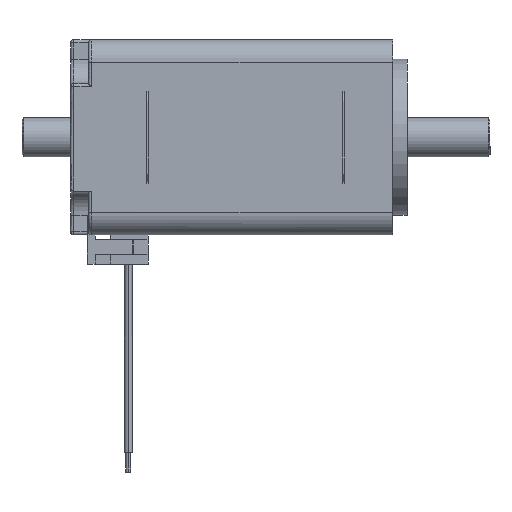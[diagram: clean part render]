
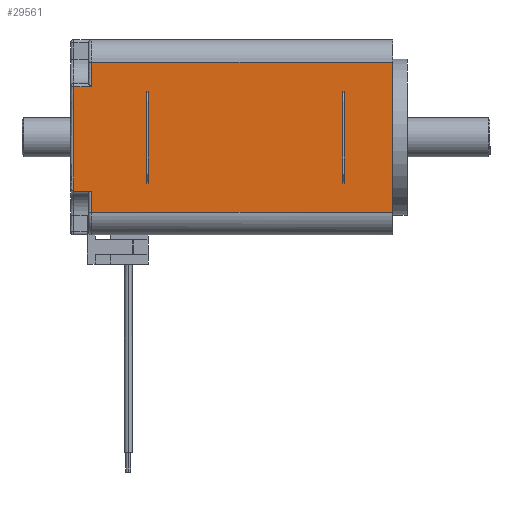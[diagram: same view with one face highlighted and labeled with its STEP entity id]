
A CAD part, left-side view. The second image highlights one B-rep face of the part: STEP entity #29561.
In plain terms, the highlighted planar face has unit normal (-1, 0, 0).
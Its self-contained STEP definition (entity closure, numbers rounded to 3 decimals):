
#7382=CARTESIAN_POINT('',(-10.,0.675,4.583));
#7383=VERTEX_POINT('',#7382);
#7391=CARTESIAN_POINT('',(-10.,0.675,-4.583));
#7392=VERTEX_POINT('',#7391);
#7393=CARTESIAN_POINT('',(-10.,0.675,4.583));
#7394=DIRECTION('',(0.,0.,-1.));
#7395=VECTOR('',#7394,9.165);
#7396=LINE('',#7393,#7395);
#7397=EDGE_CURVE('',#7383,#7392,#7396,.T.);
#8160=CARTESIAN_POINT('',(-10.,0.49,4.583));
#8161=VERTEX_POINT('',#8160);
#8162=CARTESIAN_POINT('',(-10.,0.49,4.583));
#8163=DIRECTION('',(0.,1.,0.));
#8164=VECTOR('',#8163,0.185);
#8165=LINE('',#8162,#8164);
#8166=EDGE_CURVE('',#8161,#7383,#8165,.T.);
#8209=CARTESIAN_POINT('',(-10.,0.49,-4.583));
#8210=VERTEX_POINT('',#8209);
#8244=CARTESIAN_POINT('',(-10.,0.675,-4.583));
#8245=DIRECTION('',(0.,-1.,0.));
#8246=VECTOR('',#8245,0.185);
#8247=LINE('',#8244,#8246);
#8248=EDGE_CURVE('',#7392,#8210,#8247,.T.);
#8487=CARTESIAN_POINT('',(-10.,0.49,-4.583));
#8488=DIRECTION('',(0.,0.,1.));
#8489=VECTOR('',#8488,9.165);
#8490=LINE('',#8487,#8489);
#8491=EDGE_CURVE('',#8210,#8161,#8490,.T.);
#8954=CARTESIAN_POINT('',(-10.,-4.45,7.7));
#8955=VERTEX_POINT('',#8954);
#8963=CARTESIAN_POINT('',(-10.,-4.45,-7.7));
#8964=VERTEX_POINT('',#8963);
#8965=CARTESIAN_POINT('',(-10.,-4.45,7.7));
#8966=DIRECTION('',(0.,0.,-1.));
#8967=VECTOR('',#8966,15.4);
#8968=LINE('',#8965,#8967);
#8969=EDGE_CURVE('',#8955,#8964,#8968,.T.);
#14772=CARTESIAN_POINT('',(-10.,26.42,7.7));
#14773=VERTEX_POINT('',#14772);
#14781=CARTESIAN_POINT('',(-10.,26.42,7.7));
#14782=DIRECTION('',(0.,-1.,0.));
#14783=VECTOR('',#14782,30.87);
#14784=LINE('',#14781,#14783);
#14785=EDGE_CURVE('',#14773,#8955,#14784,.T.);
#14796=CARTESIAN_POINT('',(-10.,26.42,-7.7));
#14797=VERTEX_POINT('',#14796);
#14798=CARTESIAN_POINT('',(-10.,-4.45,-7.7));
#14799=DIRECTION('',(0.,1.,0.));
#14800=VECTOR('',#14799,30.87);
#14801=LINE('',#14798,#14800);
#14802=EDGE_CURVE('',#8964,#14797,#14801,.T.);
#24553=CARTESIAN_POINT('',(-10.,20.81,-4.583));
#24554=VERTEX_POINT('',#24553);
#24734=CARTESIAN_POINT('',(-10.,20.81,4.583));
#24735=VERTEX_POINT('',#24734);
#24743=CARTESIAN_POINT('',(-10.,20.81,4.583));
#24744=DIRECTION('',(0.,0.,-1.));
#24745=VECTOR('',#24744,9.165);
#24746=LINE('',#24743,#24745);
#24747=EDGE_CURVE('',#24735,#24554,#24746,.T.);
#24907=CARTESIAN_POINT('',(-10.,20.625,-4.583));
#24908=VERTEX_POINT('',#24907);
#24916=CARTESIAN_POINT('',(-10.,20.625,4.583));
#24917=VERTEX_POINT('',#24916);
#24918=CARTESIAN_POINT('',(-10.,20.625,-4.583));
#24919=DIRECTION('',(0.,0.,1.));
#24920=VECTOR('',#24919,9.165);
#24921=LINE('',#24918,#24920);
#24922=EDGE_CURVE('',#24908,#24917,#24921,.T.);
#29066=CARTESIAN_POINT('',(-10.,20.81,-4.583));
#29067=DIRECTION('',(0.,-1.,0.));
#29068=VECTOR('',#29067,0.185);
#29069=LINE('',#29066,#29068);
#29070=EDGE_CURVE('',#24554,#24908,#29069,.T.);
#29491=CARTESIAN_POINT('',(-10.,20.625,4.583));
#29492=DIRECTION('',(0.,1.,0.));
#29493=VECTOR('',#29492,0.185);
#29494=LINE('',#29491,#29493);
#29495=EDGE_CURVE('',#24917,#24735,#29494,.T.);
#29500=CARTESIAN_POINT('',(-10.,11.9,0.));
#29501=DIRECTION('',(0.,0.,-1.));
#29502=DIRECTION('',(-1.,-0.,-0.));
#29503=AXIS2_PLACEMENT_3D('',#29500,#29502,#29501);
#29504=PLANE('',#29503);
#29505=CARTESIAN_POINT('',(-10.,26.42,5.2));
#29506=VERTEX_POINT('',#29505);
#29507=CARTESIAN_POINT('',(-10.,26.42,7.7));
#29508=DIRECTION('',(0.,0.,-1.));
#29509=VECTOR('',#29508,2.5);
#29510=LINE('',#29507,#29509);
#29511=EDGE_CURVE('',#14773,#29506,#29510,.T.);
#29512=ORIENTED_EDGE('E2681',*,*,#29511,.T.);
#29513=CARTESIAN_POINT('',(-10.,28.25,5.2));
#29514=VERTEX_POINT('',#29513);
#29515=CARTESIAN_POINT('',(-10.,26.42,5.2));
#29516=DIRECTION('',(0.,1.,0.));
#29517=VECTOR('',#29516,1.83);
#29518=LINE('',#29515,#29517);
#29519=EDGE_CURVE('',#29506,#29514,#29518,.T.);
#29520=ORIENTED_EDGE('E2682',*,*,#29519,.T.);
#29521=CARTESIAN_POINT('',(-10.,28.25,-5.5));
#29522=VERTEX_POINT('',#29521);
#29523=CARTESIAN_POINT('',(-10.,28.25,5.2));
#29524=DIRECTION('',(0.,0.,-1.));
#29525=VECTOR('',#29524,10.7);
#29526=LINE('',#29523,#29525);
#29527=EDGE_CURVE('',#29514,#29522,#29526,.T.);
#29528=ORIENTED_EDGE('E2683',*,*,#29527,.T.);
#29529=CARTESIAN_POINT('',(-10.,26.42,-5.5));
#29530=VERTEX_POINT('',#29529);
#29531=CARTESIAN_POINT('',(-10.,28.25,-5.5));
#29532=DIRECTION('',(0.,-1.,0.));
#29533=VECTOR('',#29532,1.83);
#29534=LINE('',#29531,#29533);
#29535=EDGE_CURVE('',#29522,#29530,#29534,.T.);
#29536=ORIENTED_EDGE('E2684',*,*,#29535,.T.);
#29537=CARTESIAN_POINT('',(-10.,26.42,-5.5));
#29538=CARTESIAN_POINT('',(-10.,26.42,-5.704));
#29539=CARTESIAN_POINT('',(-10.,26.42,-6.804));
#29540=CARTESIAN_POINT('',(-10.,26.42,-7.7));
#29541=B_SPLINE_CURVE_WITH_KNOTS('',2,(#29537,#29538,#29539,#29540),.UNSPECIFIED.,.F.,.U.,(3,1,3),(0.,0.026,0.139),.UNSPECIFIED.);
#29542=EDGE_CURVE('',#29530,#14797,#29541,.T.);
#29543=ORIENTED_EDGE('E2685',*,*,#29542,.T.);
#29544=ORIENTED_EDGE('E2685',*,*,#14802,.F.);
#29545=ORIENTED_EDGE('E2685',*,*,#8969,.F.);
#29546=ORIENTED_EDGE('E2685',*,*,#14785,.F.);
#29547=EDGE_LOOP('',(#29512,#29520,#29528,#29536,#29543,#29544,#29545,#29546));
#29548=FACE_OUTER_BOUND('',#29547,.T.);
#29549=ORIENTED_EDGE('',*,*,#24922,.F.);
#29550=ORIENTED_EDGE('',*,*,#29070,.F.);
#29551=ORIENTED_EDGE('',*,*,#24747,.F.);
#29552=ORIENTED_EDGE('',*,*,#29495,.F.);
#29553=EDGE_LOOP('',(#29549,#29550,#29551,#29552));
#29554=FACE_BOUND('',#29553,.T.);
#29555=ORIENTED_EDGE('',*,*,#7397,.F.);
#29556=ORIENTED_EDGE('',*,*,#8166,.F.);
#29557=ORIENTED_EDGE('',*,*,#8491,.F.);
#29558=ORIENTED_EDGE('',*,*,#8248,.F.);
#29559=EDGE_LOOP('',(#29555,#29556,#29557,#29558));
#29560=FACE_BOUND('',#29559,.T.);
#29561=ADVANCED_FACE('F762',(#29548,#29554,#29560),#29504,.T.);
